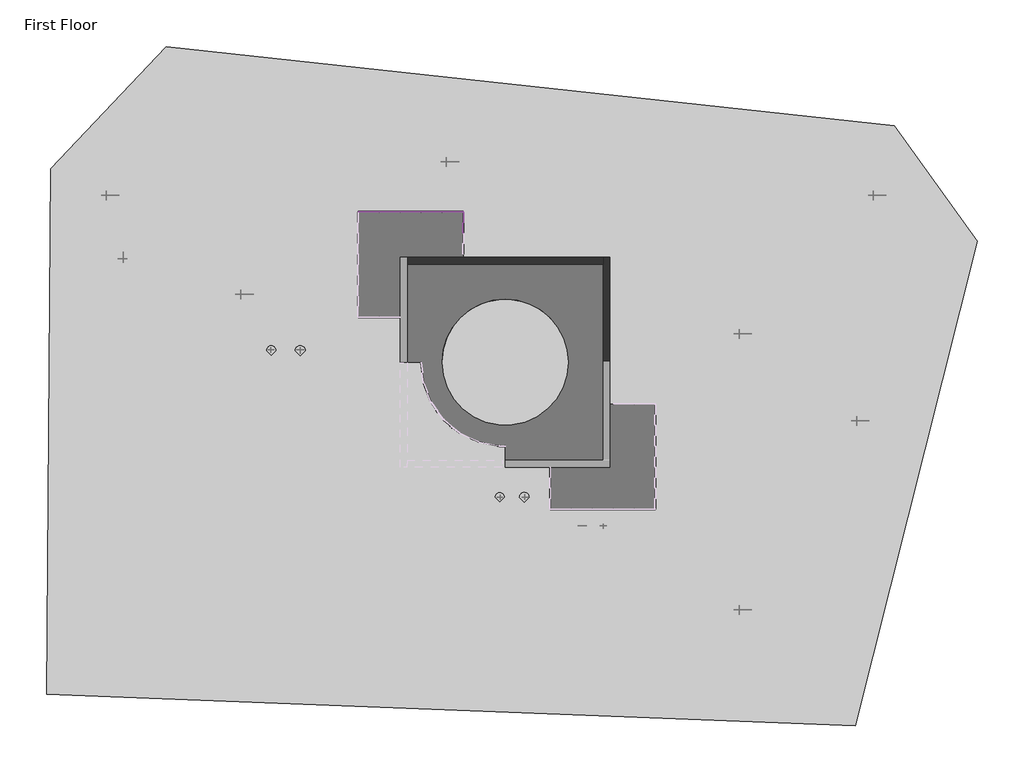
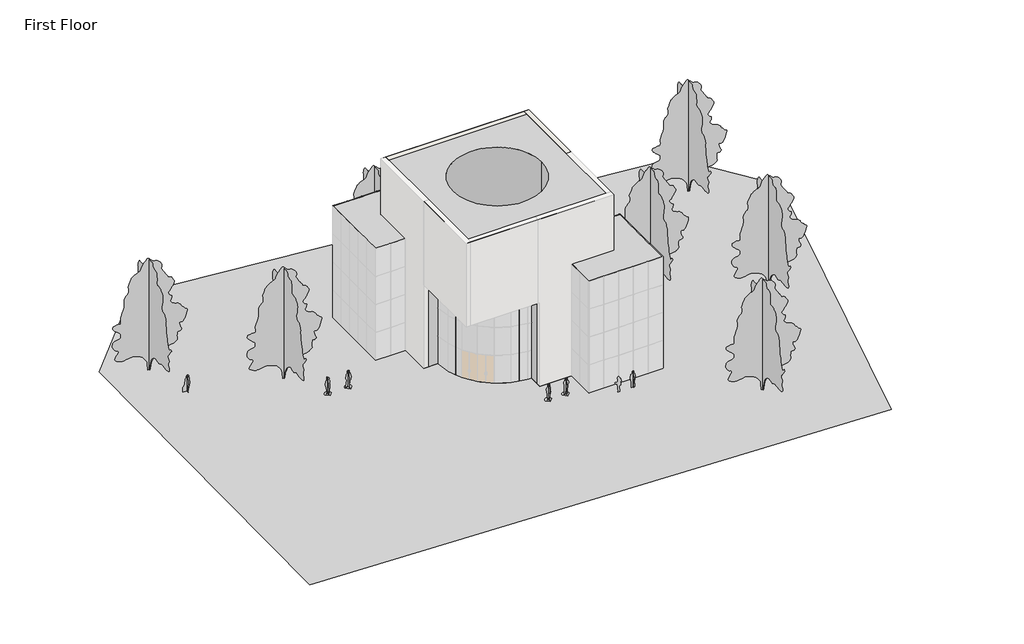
# One storey, part 4 of 4: 65 members, 24 plates, 10 proxies, 7 geographic elements, 2 slabs, 2 walls.
"""IFC4 building model written with IfcOpenShell, lengths in millimetres."""

from ifc_helpers import new_model, si_unit, point, frame, frame_2d, origin, origin_with_axes, place, context, project, spatial, polyline, circle_curve, trimmed, segment, composite_curve, outline, extrude, faceted_brep, triangles, transform, mapped, element, save
from ifc_brep_helpers import plane_surface, cylinder_surface, revolved_surface, advanced_brep
from components import rpc_female_16ef0111, rpc_female_6119fb87, rpc_female_692637f3, rpc_female_aec5a013, rpc_male_28878092, rpc_male_2293c1c2, rpc_male_04e7faa4, rpc_tree_deciduous_lombardy_poplar_40_01077960, member_6604d1e0, member_9fd3d903, member_5e617a80, member_cbdb9076, member_74941792, member_7e523723, system_panel_glazed_9c75bc08

model = new_model("IFC4")

# Units and contexts
model_context = context("Model", 3, world=origin())
ifc_project = project(units=[si_unit("LENGTHUNIT", "METRE", prefix="MILLI")], contexts=[model_context])

# Site, building, storey
site = spatial("IfcSite", under=ifc_project)
building = spatial("IfcBuilding", under=site)
storey = spatial("IfcBuildingStorey", under=building, Name="First Floor", Elevation=0.0)

# Proxies
placement = place(None, origin())
element("IfcBuildingElementProxy", 1, Name="Building Element Proxy", at=placement, inside=storey, context=model_context, shape_type="Tessellation", body=[
    triangles([(-35705.3670959, 11435.5182678, 0.0), (-27328.2505188, 20317.2807861, 0.0), (25558.6050476, 14564.3214752, 0.0), (31614.3516907, 6187.2048981, 0.0), (22732.5891724, -29037.0555176, 0.0), (-36008.1532654, -26715.6855835, 0.0)], [[6, 2, 1], [2, 6, 5], [5, 4, 3], [5, 3, 2]], closed=False),
])
element("IfcBuildingElementProxy", 2, Name="Central Hall : Central Hall", ObjectType="Central Hall : Central Hall", at=placement, inside=storey, context=model_context, shape_type="AdvancedBrep", body=[
    advanced_brep(
    [(4920.7859619, 5010.3465511, 0.0), (-10319.2140381, 5010.3465511, 0.0), (-10319.2140381, 5010.3465511, 18288.0), (4920.7859619, 5010.3465511, 18288.0), (-10319.2140381, -2609.6534489, 0.0), (-10319.2140381, -2609.6534489, 9144.0), (-10319.2140381, -10229.6534489, 9144.0), (-10319.2140381, -10229.6534489, 18288.0), (4920.7859619, -10229.6534489, 0.0), (4920.7859619, -10229.6534489, 18288.0), (-2699.2140381, -10229.6534489, 9144.0), (-2699.2140381, -10229.6534489, 0.0), (1872.7859619, -2609.6534489, 18288.0), (-7271.2140381, -2609.6534489, 18288.0), (-2699.2140381, -8705.6534489, 0.0), (-8795.2140381, -2609.6534489, 0.0), (-7271.2140381, -2609.6534489, 0.0), (1872.7859619, -2609.6534489, 0.0), (-8795.2140381, -2609.6534489, 9144.0), (-2699.2140381, -8705.6534489, 9144.0)],
    [
        (0, 1),
        (1, 2),
        (2, 3),
        (3, 0),
        (1, 4),
        (4, 5),
        (5, 6),
        (6, 7),
        (7, 2),
        (8, 9),
        (9, 7),
        (6, 10),
        (10, 11),
        (11, 8),
        (3, 9),
        (8, 0),
        (12, 13, circle_curve(frame((-2699.2140381, -2609.6534489, 18288.0), z_axis=(0.0, 0.0, -1.0), x_axis=(0.0, -1.0, 0.0)), 4572.0)),
        (13, 12, circle_curve(frame((-2699.2140381, -2609.6534489, 18288.0), z_axis=(0.0, 0.0, -1.0), x_axis=(0.0, 1.0, 0.0)), 4572.0)),
        (11, 14),
        (14, 15, circle_curve(frame((-2699.2140381, -2609.6534489, 0.0), z_axis=(0.0, 0.0, -1.0), x_axis=(-1.0, 0.0, 0.0)), 6096.0)),
        (15, 4),
        (16, 17, circle_curve(frame((-2699.2140381, -2609.6534489, 0.0), z_axis=(0.0, 0.0, 1.0), x_axis=(0.0, -1.0, 0.0)), 4572.0)),
        (17, 16, circle_curve(frame((-2699.2140381, -2609.6534489, 0.0), z_axis=(0.0, 0.0, 1.0), x_axis=(0.0, 1.0, 0.0)), 4572.0)),
        (16, 13),
        (12, 17),
        (15, 18),
        (18, 5),
        (10, 19),
        (19, 14),
        (19, 18, circle_curve(frame((-2699.2140381, -2609.6534489, 9144.0), z_axis=(0.0, 0.0, -1.0), x_axis=(-1.0, 0.0, 0.0)), 6096.0)),
    ],
    [
        plane_surface(frame((-2699.2140381, 5010.3465511, 0.0), z_axis=(0.0, 1.0, 0.0), x_axis=(-1.0, 0.0, 0.0))),
        plane_surface(frame((-10319.2140381, -2609.6534489, 0.0), z_axis=(-1.0, 0.0, 0.0), x_axis=(0.0, -1.0, 0.0))),
        plane_surface(frame((-2699.2140381, -10229.6534489, 0.0), z_axis=(0.0, -1.0, 0.0), x_axis=(1.0, 0.0, 0.0))),
        plane_surface(frame((4920.7859619, -2609.6534489, 0.0), z_axis=(1.0, 0.0, 0.0), x_axis=(0.0, 1.0, 0.0))),
        plane_surface(frame((-2699.2140381, -2609.6534489, 18288.0), z_axis=(0.0, 0.0, 1.0), x_axis=(1.0, 0.0, 0.0))),
        plane_surface(frame((-2699.2140381, -2609.6534489, 0.0), z_axis=(0.0, 0.0, -1.0), x_axis=(0.0, -1.0, 0.0))),
        revolved_surface(polyline([(-2699.2140381, -7181.6534489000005, 18288.0), (-2699.2140381, -7181.6534489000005, 0.0)]), (-2699.2140381, -2609.6534489, 0.0), (0.0, 0.0, 1.0)),
        revolved_surface(polyline([(-2699.2140381, 1962.3465511, 18288.0), (-2699.2140381, 1962.3465511, 0.0)]), (-2699.2140381, -2609.6534489, 0.0), (0.0, 0.0, 1.0)),
        plane_surface(frame((-9557.2140381, -2609.6534489, 0.0), z_axis=(0.0, -1.0, 0.0), x_axis=(-1.0, 0.0, 0.0))),
        plane_surface(frame((-2699.2140381, -9467.6534489, 0.0), z_axis=(-1.0, 0.0, 0.0), x_axis=(0.0, 1.0, 0.0))),
        cylinder_surface(frame((-2699.2140381, -2609.6534489, 0.0), z_axis=(0.0, 0.0, 1.0), x_axis=(-1.0, 0.0, 0.0)), 6096.0),
        plane_surface(frame((-6966.4140381, -6876.8534489, 9144.0), z_axis=(0.0, 0.0, -1.0), x_axis=(1.0, 0.0, 0.0))),
    ],
    [
        (0, [[1, 2, 3, 4]]),
        (1, [[-2, 5, 6, 7, 8, 9]]),
        (2, [[10, 11, -8, 12, 13, 14]]),
        (3, [[-4, 15, -10, 16]]),
        (4, [[-3, -9, -11, -15], [17, 18]]),
        (5, [[-1, -16, -14, 19, 20, 21, -5], [22, 23]]),
        (6, [[24, -17, 25, -22]]),
        (7, [[-24, -23, -25, -18]]),
        (8, [[26, 27, -6, -21]]),
        (9, [[28, 29, -19, -13]]),
        (10, [[-26, -20, -29, 30]]),
        (11, [[-27, -30, -28, -12, -7]]),
    ],
),
])
rpc_female_shape = rpc_female_16ef0111(model_context)
element("IfcBuildingElementProxy", 3, Name="RPC Female : Cathy", ObjectType="RPC Female : Cathy", at=placement, inside=storey, context=model_context, shape_type="MappedRepresentation", body=[
    mapped(rpc_female_shape, transform((-30496.8872424, 5010.3465511, 0.0), x_axis=(1.0, 0.0, 0.0), y_axis=(0.0, 1.0, 0.0), z_axis=(0.0, 0.0, 1.0))),
])
rpc_female_2_shape = rpc_female_6119fb87(model_context)
element("IfcBuildingElementProxy", 4, Name="RPC Female : YinYin", ObjectType="RPC Female : YinYin", at=placement, inside=storey, context=model_context, shape_type="MappedRepresentation", body=[
    mapped(rpc_female_2_shape, transform((-19686.3832739, -1765.415362, 0.0), x_axis=(1.0, 0.0, 0.0), y_axis=(0.0, 1.0, 0.0), z_axis=(0.0, 0.0, 1.0))),
])
rpc_female_3_shape = rpc_female_692637f3(model_context)
element("IfcBuildingElementProxy", 5, Name="RPC Female : Florence", ObjectType="RPC Female : Florence", at=placement, inside=storey, context=model_context, shape_type="MappedRepresentation", body=[
    mapped(rpc_female_3_shape, transform((-3089.4792099, -12420.4034489, 0.0), x_axis=(1.0, 0.0, 0.0), y_axis=(0.0, 1.0, 0.0), z_axis=(0.0, 0.0, 1.0))),
])
rpc_female_4_shape = rpc_female_aec5a013(model_context)
element("IfcBuildingElementProxy", 6, Name="RPC Female : Lisa", ObjectType="RPC Female : Lisa", at=placement, inside=storey, context=model_context, shape_type="MappedRepresentation", body=[
    mapped(rpc_female_4_shape, transform((2896.0466823, -14496.8534489, 0.0), x_axis=(1.0, 0.0, 0.0), y_axis=(0.0, 1.0, 0.0), z_axis=(0.0, 0.0, 1.0))),
])
rpc_male_shape = rpc_male_28878092(model_context)
element("IfcBuildingElementProxy", 7, Name="RPC Male : Dwayne", ObjectType="RPC Male : Dwayne", at=placement, inside=storey, context=model_context, shape_type="MappedRepresentation", body=[
    mapped(rpc_male_shape, transform((4425.4859619, -14496.8534489, 0.0), x_axis=(1.0, 0.0, 0.0), y_axis=(0.0, 1.0, 0.0), z_axis=(0.0, 0.0, 1.0))),
])
rpc_male_2_shape = rpc_male_2293c1c2(model_context)
element("IfcBuildingElementProxy", 8, Name="RPC Male : Alex", ObjectType="RPC Male : Alex", at=placement, inside=storey, context=model_context, shape_type="MappedRepresentation", body=[
    mapped(rpc_male_2_shape, transform((-17580.7524224, -1765.415362, 0.0), x_axis=(1.0, 0.0, 0.0), y_axis=(0.0, 1.0, 0.0), z_axis=(0.0, 0.0, 1.0))),
])
rpc_male_3_shape = rpc_male_04e7faa4(model_context)
element("IfcBuildingElementProxy", 9, Name="RPC Male : Jay", ObjectType="RPC Male : Jay", at=placement, inside=storey, context=model_context, shape_type="MappedRepresentation", body=[
    mapped(rpc_male_3_shape, transform((-1304.3223648, -12420.4034489, 0.0), x_axis=(1.0, 0.0, 0.0), y_axis=(0.0, 1.0, 0.0), z_axis=(0.0, 0.0, 1.0))),
])
element("IfcBuildingElementProxy", 10, Name="Wings : Wings", ObjectType="Wings : Wings", at=placement, inside=storey, context=model_context, shape_type="SweptSolid", body=[
    extrude(outline(polyline([(-13367.2140381, 672.984638), (-13367.2140381, 8292.984638), (-5747.2140381, 8292.984638), (-5747.2140381, 5244.984638), (-5747.2140381, 5010.3465511), (-10319.2140381, 5010.3465511), (-10319.2140381, 672.984638), (-13367.2140381, 672.984638)])), origin_with_axes(), (0.0, 0.0, 1.0), 12192.0),
    extrude(outline(polyline([(583.4240488, -13277.6534489), (583.4240488, -10229.6534489), (4920.7859619, -10229.6534489), (4920.7859619, -5657.6534489), (5155.4240488, -5657.6534489), (8203.4240488, -5657.6534489), (8203.4240488, -13277.6534489), (583.4240488, -13277.6534489)])), origin_with_axes(), (0.0, 0.0, 1.0), 12192.0),
])

# Geographic elements
rpc_tree_deciduous_lombardy_poplar_40_shape = rpc_tree_deciduous_lombardy_poplar_40_01077960(model_context)
element("IfcGeographicElement", 11, ObjectType="RPC Tree - Deciduous : Lombardy Poplar - 40'", at=placement, inside=storey, context=model_context, shape_type="MappedRepresentation", body=[
    mapped(rpc_tree_deciduous_lombardy_poplar_40_shape, transform((-21901.6140381, 2324.2965511, 0.0), x_axis=(1.0, 0.0, 0.0), y_axis=(0.0, 1.0, 0.0), z_axis=(0.0, 0.0, 1.0))),
])
element("IfcGeographicElement", 12, ObjectType="RPC Tree - Deciduous : Lombardy Poplar - 40'", at=placement, inside=storey, context=model_context, shape_type="MappedRepresentation", body=[
    mapped(rpc_tree_deciduous_lombardy_poplar_40_shape, transform((-6966.4140381, 11950.584638, 0.0), x_axis=(1.0, 0.0, 0.0), y_axis=(0.0, 1.0, 0.0), z_axis=(0.0, 0.0, 1.0))),
])
element("IfcGeographicElement", 13, ObjectType="RPC Tree - Deciduous : Lombardy Poplar - 40'", at=placement, inside=storey, context=model_context, shape_type="MappedRepresentation", body=[
    mapped(rpc_tree_deciduous_lombardy_poplar_40_shape, transform((-31655.2140381, 9512.184638, 0.0), x_axis=(1.0, 0.0, 0.0), y_axis=(0.0, 1.0, 0.0), z_axis=(0.0, 0.0, 1.0))),
])
element("IfcGeographicElement", 14, ObjectType="RPC Tree - Deciduous : Lombardy Poplar - 40'", at=placement, inside=storey, context=model_context, shape_type="MappedRepresentation", body=[
    mapped(rpc_tree_deciduous_lombardy_poplar_40_shape, transform((24053.0240488, 9512.184638, 0.0), x_axis=(1.0, 0.0, 0.0), y_axis=(0.0, 1.0, 0.0), z_axis=(0.0, 0.0, 1.0))),
])
element("IfcGeographicElement", 15, ObjectType="RPC Tree - Deciduous : Lombardy Poplar - 40'", at=placement, inside=storey, context=model_context, shape_type="MappedRepresentation", body=[
    mapped(rpc_tree_deciduous_lombardy_poplar_40_shape, transform((14299.4240488, -546.215362, 0.0), x_axis=(1.0, 0.0, 0.0), y_axis=(0.0, 1.0, 0.0), z_axis=(0.0, 0.0, 1.0))),
])
element("IfcGeographicElement", 16, ObjectType="RPC Tree - Deciduous : Lombardy Poplar - 40'", at=placement, inside=storey, context=model_context, shape_type="MappedRepresentation", body=[
    mapped(rpc_tree_deciduous_lombardy_poplar_40_shape, transform((22833.8240488, -6876.8534489, 0.0), x_axis=(1.0, 0.0, 0.0), y_axis=(0.0, 1.0, 0.0), z_axis=(0.0, 0.0, 1.0))),
])
element("IfcGeographicElement", 17, ObjectType="RPC Tree - Deciduous : Lombardy Poplar - 40'", at=placement, inside=storey, context=model_context, shape_type="MappedRepresentation", body=[
    mapped(rpc_tree_deciduous_lombardy_poplar_40_shape, transform((14299.4240488, -20592.8534489, 0.0), x_axis=(1.0, 0.0, 0.0), y_axis=(0.0, 1.0, 0.0), z_axis=(0.0, 0.0, 1.0))),
])

# Members
member_shape = member_6604d1e0(model_context)
element("IfcMember", 18, ObjectType="Rectangular Mullion : 1\" Square", at=placement, inside=storey, context=model_context, shape_type="MappedRepresentation", body=[
    mapped(member_shape, transform((-10331.9140381, 8292.984638, 0.0), x_axis=(0.0, 0.0, -1.0), y_axis=(0.0, 1.0, 0.0), z_axis=(1.0, 0.0, 0.0))),
])
element("IfcMember", 19, ObjectType="Rectangular Mullion : 1\" Square", at=placement, inside=storey, context=model_context, shape_type="MappedRepresentation", body=[
    mapped(member_shape, transform((-8807.9140381, 8292.984638, 0.0), x_axis=(0.0, 0.0, -1.0), y_axis=(0.0, 1.0, 0.0), z_axis=(1.0, 0.0, 0.0))),
])
element("IfcMember", 20, ObjectType="Rectangular Mullion : 1\" Square", at=placement, inside=storey, context=model_context, shape_type="MappedRepresentation", body=[
    mapped(member_shape, transform((-7283.9140381, 8292.984638, 0.0), x_axis=(0.0, 0.0, -1.0), y_axis=(0.0, 1.0, 0.0), z_axis=(1.0, 0.0, 0.0))),
])
member_2_shape = member_9fd3d903(model_context)
element("IfcMember", 21, ObjectType="Rectangular Mullion : 1\" Square", at=placement, inside=storey, context=model_context, shape_type="MappedRepresentation", body=[
    mapped(member_2_shape, transform((-10306.5140381, 8292.984638, 6096.0), x_axis=(0.0, 0.0, 1.0), y_axis=(0.0, 1.0, 0.0), z_axis=(-1.0, 0.0, 0.0))),
])
element("IfcMember", 22, ObjectType="Rectangular Mullion : 1\" Square", at=placement, inside=storey, context=model_context, shape_type="MappedRepresentation", body=[
    mapped(member_2_shape, transform((-10306.5140381, 8292.984638, 3048.0), x_axis=(0.0, 0.0, 1.0), y_axis=(0.0, 1.0, 0.0), z_axis=(-1.0, 0.0, 0.0))),
])
element("IfcMember", 23, ObjectType="Rectangular Mullion : 1\" Square", at=placement, inside=storey, context=model_context, shape_type="MappedRepresentation", body=[
    mapped(member_2_shape, transform((-8782.5140381, 8292.984638, 6096.0), x_axis=(0.0, 0.0, 1.0), y_axis=(0.0, 1.0, 0.0), z_axis=(-1.0, 0.0, 0.0))),
])
element("IfcMember", 24, ObjectType="Rectangular Mullion : 1\" Square", at=placement, inside=storey, context=model_context, shape_type="MappedRepresentation", body=[
    mapped(member_2_shape, transform((-11830.5140381, 8292.984638, 3048.0), x_axis=(0.0, 0.0, 1.0), y_axis=(0.0, 1.0, 0.0), z_axis=(-1.0, 0.0, 0.0))),
])
element("IfcMember", 25, ObjectType="Rectangular Mullion : 1\" Square", at=placement, inside=storey, context=model_context, shape_type="MappedRepresentation", body=[
    mapped(member_2_shape, transform((-8782.5140381, 8292.984638, 3048.0), x_axis=(0.0, 0.0, 1.0), y_axis=(0.0, 1.0, 0.0), z_axis=(-1.0, 0.0, 0.0))),
])
element("IfcMember", 26, ObjectType="Rectangular Mullion : 1\" Square", at=placement, inside=storey, context=model_context, shape_type="MappedRepresentation", body=[
    mapped(member_2_shape, transform((-11830.5140381, 8292.984638, 9144.0), x_axis=(0.0, 0.0, 1.0), y_axis=(0.0, 1.0, 0.0), z_axis=(-1.0, 0.0, 0.0))),
])
element("IfcMember", 27, ObjectType="Rectangular Mullion : 1\" Square", at=placement, inside=storey, context=model_context, shape_type="MappedRepresentation", body=[
    mapped(member_2_shape, transform((-8782.5140381, 8292.984638, 9144.0), x_axis=(0.0, 0.0, 1.0), y_axis=(0.0, 1.0, 0.0), z_axis=(-1.0, 0.0, 0.0))),
])
element("IfcMember", 28, ObjectType="Rectangular Mullion : 1\" Square", at=placement, inside=storey, context=model_context, shape_type="MappedRepresentation", body=[
    mapped(member_2_shape, transform((-10306.5140381, 8292.984638, 9144.0), x_axis=(0.0, 0.0, 1.0), y_axis=(0.0, 1.0, 0.0), z_axis=(-1.0, 0.0, 0.0))),
])
element("IfcMember", 29, ObjectType="Rectangular Mullion : 1\" Square", at=placement, inside=storey, context=model_context, shape_type="MappedRepresentation", body=[
    mapped(member_2_shape, transform((-11830.5140381, 8292.984638, 6096.0), x_axis=(0.0, 0.0, 1.0), y_axis=(0.0, 1.0, 0.0), z_axis=(-1.0, 0.0, 0.0))),
])
member_3_shape = member_5e617a80(model_context)
element("IfcMember", 30, ObjectType="Rectangular Mullion : 1\" Square", at=placement, inside=storey, context=model_context, shape_type="MappedRepresentation", body=[
    mapped(member_3_shape, transform((-5747.2140381, 8267.584638, 3048.0), x_axis=(0.0, 0.0, 1.0), y_axis=(1.0, 0.0, 0.0), z_axis=(0.0, 1.0, 0.0))),
])
element("IfcMember", 31, ObjectType="Rectangular Mullion : 1\" Square", at=placement, inside=storey, context=model_context, shape_type="MappedRepresentation", body=[
    mapped(member_3_shape, transform((-5747.2140381, 8267.584638, 9144.0), x_axis=(0.0, 0.0, 1.0), y_axis=(1.0, 0.0, 0.0), z_axis=(0.0, 1.0, 0.0))),
])
element("IfcMember", 32, ObjectType="Rectangular Mullion : 1\" Square", at=placement, inside=storey, context=model_context, shape_type="MappedRepresentation", body=[
    mapped(member_3_shape, transform((-5747.2140381, 8267.584638, 6096.0), x_axis=(0.0, 0.0, 1.0), y_axis=(1.0, 0.0, 0.0), z_axis=(0.0, 1.0, 0.0))),
])
element("IfcMember", 33, ObjectType="Rectangular Mullion : 1\" Square", at=placement, inside=storey, context=model_context, shape_type="MappedRepresentation", body=[
    mapped(member_3_shape, transform((-13341.8140381, 8292.984638, 9144.0), x_axis=(0.0, 0.0, 1.0), y_axis=(0.0, 1.0, 0.0), z_axis=(-1.0, 0.0, 0.0))),
])
element("IfcMember", 34, ObjectType="Rectangular Mullion : 1\" Square", at=placement, inside=storey, context=model_context, shape_type="MappedRepresentation", body=[
    mapped(member_3_shape, transform((-7258.5140381, 8292.984638, 3048.0), x_axis=(0.0, 0.0, 1.0), y_axis=(0.0, 1.0, 0.0), z_axis=(-1.0, 0.0, 0.0))),
])
element("IfcMember", 35, ObjectType="Rectangular Mullion : 1\" Square", at=placement, inside=storey, context=model_context, shape_type="MappedRepresentation", body=[
    mapped(member_3_shape, transform((-7258.5140381, 8292.984638, 6096.0), x_axis=(0.0, 0.0, 1.0), y_axis=(0.0, 1.0, 0.0), z_axis=(-1.0, 0.0, 0.0))),
])
element("IfcMember", 36, ObjectType="Rectangular Mullion : 1\" Square", at=placement, inside=storey, context=model_context, shape_type="MappedRepresentation", body=[
    mapped(member_3_shape, transform((-13341.8140381, 8292.984638, 3048.0), x_axis=(0.0, 0.0, 1.0), y_axis=(0.0, 1.0, 0.0), z_axis=(-1.0, 0.0, 0.0))),
])
element("IfcMember", 37, ObjectType="Rectangular Mullion : 1\" Square", at=placement, inside=storey, context=model_context, shape_type="MappedRepresentation", body=[
    mapped(member_3_shape, transform((-13341.8140381, 8292.984638, 6096.0), x_axis=(0.0, 0.0, 1.0), y_axis=(0.0, 1.0, 0.0), z_axis=(-1.0, 0.0, 0.0))),
])
element("IfcMember", 38, ObjectType="Rectangular Mullion : 1\" Square", at=placement, inside=storey, context=model_context, shape_type="MappedRepresentation", body=[
    mapped(member_3_shape, transform((-7258.5140381, 8292.984638, 9144.0), x_axis=(0.0, 0.0, 1.0), y_axis=(0.0, 1.0, 0.0), z_axis=(-1.0, 0.0, 0.0))),
])
member_4_shape = member_cbdb9076(model_context)
element("IfcMember", 39, ObjectType="Rectangular Mullion : 1\" Square", at=placement, inside=storey, context=model_context, shape_type="MappedRepresentation", body=[
    mapped(member_4_shape, transform((-5747.2140381, 6768.984638, 9144.0), x_axis=(0.0, 1.0, 0.0), y_axis=(1.0, 0.0, 0.0), z_axis=(0.0, 0.0, -1.0))),
])
element("IfcMember", 40, ObjectType="Rectangular Mullion : 1\" Square", at=placement, inside=storey, context=model_context, shape_type="MappedRepresentation", body=[
    mapped(member_4_shape, transform((-10319.2140381, 8292.984638, 9144.0), x_axis=(-1.0, 0.0, 0.0), y_axis=(0.0, 1.0, 0.0), z_axis=(0.0, 0.0, -1.0))),
])
element("IfcMember", 41, ObjectType="Rectangular Mullion : 1\" Square", at=placement, inside=storey, context=model_context, shape_type="MappedRepresentation", body=[
    mapped(member_4_shape, transform((-8795.2140381, 8292.984638, 9144.0), x_axis=(-1.0, 0.0, 0.0), y_axis=(0.0, 1.0, 0.0), z_axis=(0.0, 0.0, -1.0))),
])
element("IfcMember", 42, ObjectType="Rectangular Mullion : 1\" Square", at=placement, inside=storey, context=model_context, shape_type="MappedRepresentation", body=[
    mapped(member_4_shape, transform((-7271.2140381, 8292.984638, 9144.0), x_axis=(-1.0, 0.0, 0.0), y_axis=(0.0, 1.0, 0.0), z_axis=(0.0, 0.0, -1.0))),
])
element("IfcMember", 43, ObjectType="Rectangular Mullion : 1\" Square", at=placement, inside=storey, context=model_context, shape_type="MappedRepresentation", body=[
    mapped(member_4_shape, transform((-11843.2140381, 8292.984638, 9144.0), x_axis=(-1.0, 0.0, 0.0), y_axis=(0.0, 1.0, 0.0), z_axis=(0.0, 0.0, -1.0))),
])
element("IfcMember", 44, ObjectType="Rectangular Mullion : 1\" Square", at=placement, inside=storey, context=model_context, shape_type="MappedRepresentation", body=[
    mapped(member_4_shape, transform((-5747.2140381, 6768.984638, 3048.0), x_axis=(0.0, 1.0, 0.0), y_axis=(1.0, 0.0, 0.0), z_axis=(0.0, 0.0, -1.0))),
])
element("IfcMember", 45, ObjectType="Rectangular Mullion : 1\" Square", at=placement, inside=storey, context=model_context, shape_type="MappedRepresentation", body=[
    mapped(member_4_shape, transform((-5747.2140381, 6768.984638, 6096.0), x_axis=(0.0, 1.0, 0.0), y_axis=(1.0, 0.0, 0.0), z_axis=(0.0, 0.0, -1.0))),
])
element("IfcMember", 46, ObjectType="Rectangular Mullion : 1\" Square", at=placement, inside=storey, context=model_context, shape_type="MappedRepresentation", body=[
    mapped(member_4_shape, transform((-11843.2140381, 8292.984638, 3048.0), x_axis=(-1.0, 0.0, 0.0), y_axis=(0.0, 1.0, 0.0), z_axis=(0.0, 0.0, -1.0))),
])
element("IfcMember", 47, ObjectType="Rectangular Mullion : 1\" Square", at=placement, inside=storey, context=model_context, shape_type="MappedRepresentation", body=[
    mapped(member_4_shape, transform((-10319.2140381, 8292.984638, 6096.0), x_axis=(-1.0, 0.0, 0.0), y_axis=(0.0, 1.0, 0.0), z_axis=(0.0, 0.0, -1.0))),
])
element("IfcMember", 48, ObjectType="Rectangular Mullion : 1\" Square", at=placement, inside=storey, context=model_context, shape_type="MappedRepresentation", body=[
    mapped(member_4_shape, transform((-10319.2140381, 8292.984638, 3048.0), x_axis=(-1.0, 0.0, 0.0), y_axis=(0.0, 1.0, 0.0), z_axis=(0.0, 0.0, -1.0))),
])
element("IfcMember", 49, ObjectType="Rectangular Mullion : 1\" Square", at=placement, inside=storey, context=model_context, shape_type="MappedRepresentation", body=[
    mapped(member_4_shape, transform((-8795.2140381, 8292.984638, 6096.0), x_axis=(-1.0, 0.0, 0.0), y_axis=(0.0, 1.0, 0.0), z_axis=(0.0, 0.0, -1.0))),
])
element("IfcMember", 50, ObjectType="Rectangular Mullion : 1\" Square", at=placement, inside=storey, context=model_context, shape_type="MappedRepresentation", body=[
    mapped(member_4_shape, transform((-8795.2140381, 8292.984638, 3048.0), x_axis=(-1.0, 0.0, 0.0), y_axis=(0.0, 1.0, 0.0), z_axis=(0.0, 0.0, -1.0))),
])
element("IfcMember", 51, ObjectType="Rectangular Mullion : 1\" Square", at=placement, inside=storey, context=model_context, shape_type="MappedRepresentation", body=[
    mapped(member_4_shape, transform((-7271.2140381, 8292.984638, 6096.0), x_axis=(-1.0, 0.0, 0.0), y_axis=(0.0, 1.0, 0.0), z_axis=(0.0, 0.0, -1.0))),
])
element("IfcMember", 52, ObjectType="Rectangular Mullion : 1\" Square", at=placement, inside=storey, context=model_context, shape_type="MappedRepresentation", body=[
    mapped(member_4_shape, transform((-7271.2140381, 8292.984638, 3048.0), x_axis=(-1.0, 0.0, 0.0), y_axis=(0.0, 1.0, 0.0), z_axis=(0.0, 0.0, -1.0))),
])
element("IfcMember", 53, ObjectType="Rectangular Mullion : 1\" Square", at=placement, inside=storey, context=model_context, shape_type="MappedRepresentation", body=[
    mapped(member_4_shape, transform((-11843.2140381, 8292.984638, 6096.0), x_axis=(-1.0, 0.0, 0.0), y_axis=(0.0, 1.0, 0.0), z_axis=(0.0, 0.0, -1.0))),
])
element("IfcMember", 54, ObjectType="Rectangular Mullion : 1\" Square", at=placement, inside=storey, context=model_context, shape_type="MappedRepresentation", body=[
    mapped(member_shape, transform((-11830.5140381, 8292.984638, 12192.0), x_axis=(0.0, 0.0, 1.0), y_axis=(0.0, 1.0, 0.0), z_axis=(-1.0, 0.0, 0.0))),
])
element("IfcMember", 55, ObjectType="Rectangular Mullion : 1\" Square", at=placement, inside=storey, context=model_context, shape_type="MappedRepresentation", body=[
    mapped(member_shape, transform((-10306.5140381, 8292.984638, 12192.0), x_axis=(0.0, 0.0, 1.0), y_axis=(0.0, 1.0, 0.0), z_axis=(-1.0, 0.0, 0.0))),
])
element("IfcMember", 56, ObjectType="Rectangular Mullion : 1\" Square", at=placement, inside=storey, context=model_context, shape_type="MappedRepresentation", body=[
    mapped(member_shape, transform((-8782.5140381, 8292.984638, 12192.0), x_axis=(0.0, 0.0, 1.0), y_axis=(0.0, 1.0, 0.0), z_axis=(-1.0, 0.0, 0.0))),
])
member_5_shape = member_74941792(model_context)
element("IfcMember", 57, ObjectType="Rectangular Mullion : 1\" Square", at=placement, inside=storey, context=model_context, shape_type="MappedRepresentation", body=[
    mapped(member_5_shape, transform((-11855.9140381, 8292.984638, 0.0), x_axis=(0.0, 0.0, -1.0), y_axis=(0.0, 1.0, 0.0), z_axis=(1.0, 0.0, 0.0))),
])
element("IfcMember", 58, ObjectType="Rectangular Mullion : 1\" Square", at=placement, inside=storey, context=model_context, shape_type="MappedRepresentation", body=[
    mapped(member_5_shape, transform((-5772.6140381, 8292.984638, 0.0), x_axis=(0.0, 0.0, -1.0), y_axis=(0.0, 1.0, 0.0), z_axis=(1.0, 0.0, 0.0))),
])
element("IfcMember", 59, ObjectType="Rectangular Mullion : 1\" Square", at=placement, inside=storey, context=model_context, shape_type="MappedRepresentation", body=[
    mapped(member_5_shape, transform((-13367.2140381, 8267.584638, 0.0), x_axis=(0.0, 0.0, -1.0), y_axis=(-1.0, 0.0, 0.0), z_axis=(0.0, 1.0, 0.0))),
])
element("IfcMember", 60, ObjectType="Rectangular Mullion : 1\" Square", at=placement, inside=storey, context=model_context, shape_type="MappedRepresentation", body=[
    mapped(member_5_shape, transform((-5747.2140381, 8267.584638, 12192.0), x_axis=(0.0, 0.0, 1.0), y_axis=(1.0, 0.0, 0.0), z_axis=(0.0, 1.0, 0.0))),
])
element("IfcMember", 61, ObjectType="Rectangular Mullion : 1\" Square", at=placement, inside=storey, context=model_context, shape_type="MappedRepresentation", body=[
    mapped(member_5_shape, transform((-7258.5140381, 8292.984638, 12192.0), x_axis=(0.0, 0.0, 1.0), y_axis=(0.0, 1.0, 0.0), z_axis=(-1.0, 0.0, 0.0))),
])
element("IfcMember", 62, ObjectType="Rectangular Mullion : 1\" Square", at=placement, inside=storey, context=model_context, shape_type="MappedRepresentation", body=[
    mapped(member_5_shape, transform((-13341.8140381, 8292.984638, 12192.0), x_axis=(0.0, 0.0, 1.0), y_axis=(0.0, 1.0, 0.0), z_axis=(-1.0, 0.0, 0.0))),
])
element("IfcMember", 63, ObjectType="Rectangular Mullion : 1\" Square", at=placement, inside=storey, context=model_context, shape_type="MappedRepresentation", body=[
    mapped(member_4_shape, transform((-10319.2140381, 8292.984638, 0.0), x_axis=(-1.0, 0.0, 0.0), y_axis=(0.0, 1.0, 0.0), z_axis=(0.0, 0.0, -1.0))),
])
element("IfcMember", 64, ObjectType="Rectangular Mullion : 1\" Square", at=placement, inside=storey, context=model_context, shape_type="MappedRepresentation", body=[
    mapped(member_4_shape, transform((-11843.2140381, 8292.984638, 0.0), x_axis=(-1.0, 0.0, 0.0), y_axis=(0.0, 1.0, 0.0), z_axis=(0.0, 0.0, -1.0))),
])
element("IfcMember", 65, ObjectType="Rectangular Mullion : 1\" Square", at=placement, inside=storey, context=model_context, shape_type="MappedRepresentation", body=[
    mapped(member_4_shape, transform((-8795.2140381, 8292.984638, 0.0), x_axis=(-1.0, 0.0, 0.0), y_axis=(0.0, 1.0, 0.0), z_axis=(0.0, 0.0, -1.0))),
])
element("IfcMember", 66, ObjectType="Rectangular Mullion : 1\" Square", at=placement, inside=storey, context=model_context, shape_type="MappedRepresentation", body=[
    mapped(member_4_shape, transform((-7271.2140381, 8292.984638, 0.0), x_axis=(-1.0, 0.0, 0.0), y_axis=(0.0, 1.0, 0.0), z_axis=(0.0, 0.0, -1.0))),
])
member_6_shape = member_7e523723(model_context)
element("IfcMember", 67, ObjectType="Rectangular Mullion : 1\" Square", at=placement, inside=storey, context=model_context, shape_type="MappedRepresentation", body=[
    mapped(member_6_shape, transform((-5747.2140381, 8292.984638, 9144.0), x_axis=(1.0, 0.0, 0.0), y_axis=(0.0, 1.0, 0.0), z_axis=(0.0, 0.0, 1.0))),
])
element("IfcMember", 68, ObjectType="Rectangular Mullion : 1\" Square", at=placement, inside=storey, context=model_context, shape_type="MappedRepresentation", body=[
    mapped(member_6_shape, transform((-5747.2140381, 8292.984638, 6096.0), x_axis=(1.0, 0.0, 0.0), y_axis=(0.0, 1.0, 0.0), z_axis=(0.0, 0.0, 1.0))),
])
element("IfcMember", 69, ObjectType="Rectangular Mullion : 1\" Square", at=placement, inside=storey, context=model_context, shape_type="MappedRepresentation", body=[
    mapped(member_6_shape, transform((-13367.2140381, 8292.984638, 6096.0), x_axis=(0.0, 1.0, 0.0), y_axis=(-1.0, 0.0, 0.0), z_axis=(0.0, 0.0, 1.0))),
])
element("IfcMember", 70, ObjectType="Rectangular Mullion : 1\" Square", at=placement, inside=storey, context=model_context, shape_type="MappedRepresentation", body=[
    mapped(member_6_shape, transform((-13367.2140381, 8292.984638, 9144.0), x_axis=(0.0, 1.0, 0.0), y_axis=(-1.0, 0.0, 0.0), z_axis=(0.0, 0.0, 1.0))),
])
element("IfcMember", 71, ObjectType="Rectangular Mullion : 1\" Square", at=placement, inside=storey, context=model_context, shape_type="MappedRepresentation", body=[
    mapped(member_6_shape, transform((-5747.2140381, 8292.984638, 3048.0), x_axis=(1.0, 0.0, 0.0), y_axis=(0.0, 1.0, 0.0), z_axis=(0.0, 0.0, 1.0))),
])
element("IfcMember", 72, ObjectType="Rectangular Mullion : 1\" Square", at=placement, inside=storey, context=model_context, shape_type="MappedRepresentation", body=[
    mapped(member_6_shape, transform((-13367.2140381, 8292.984638, 3048.0), x_axis=(0.0, 1.0, 0.0), y_axis=(-1.0, 0.0, 0.0), z_axis=(0.0, 0.0, 1.0))),
])
element("IfcMember", 73, ObjectType="Rectangular Mullion : 1\" Square", at=placement, inside=storey, context=model_context, shape_type="MappedRepresentation", body=[
    mapped(member_6_shape, transform((-5747.2140381, 8292.984638, 6096.0), x_axis=(0.0, 1.0, 0.0), y_axis=(1.0, 0.0, 0.0), z_axis=(0.0, 0.0, -1.0))),
])
element("IfcMember", 74, ObjectType="Rectangular Mullion : 1\" Square", at=placement, inside=storey, context=model_context, shape_type="MappedRepresentation", body=[
    mapped(member_6_shape, transform((-5747.2140381, 8292.984638, 3048.0), x_axis=(0.0, 1.0, 0.0), y_axis=(1.0, 0.0, 0.0), z_axis=(0.0, 0.0, -1.0))),
])
element("IfcMember", 75, ObjectType="Rectangular Mullion : 1\" Square", at=placement, inside=storey, context=model_context, shape_type="MappedRepresentation", body=[
    mapped(member_6_shape, transform((-13367.2140381, 8292.984638, 6096.0), x_axis=(-1.0, 0.0, 0.0), y_axis=(0.0, 1.0, 0.0), z_axis=(0.0, 0.0, -1.0))),
])
element("IfcMember", 76, ObjectType="Rectangular Mullion : 1\" Square", at=placement, inside=storey, context=model_context, shape_type="MappedRepresentation", body=[
    mapped(member_6_shape, transform((-13367.2140381, 8292.984638, 3048.0), x_axis=(-1.0, 0.0, 0.0), y_axis=(0.0, 1.0, 0.0), z_axis=(0.0, 0.0, -1.0))),
])
element("IfcMember", 77, ObjectType="Rectangular Mullion : 1\" Square", at=placement, inside=storey, context=model_context, shape_type="MappedRepresentation", body=[
    mapped(member_6_shape, transform((-5747.2140381, 8292.984638, 9144.0), x_axis=(0.0, 1.0, 0.0), y_axis=(1.0, 0.0, 0.0), z_axis=(0.0, 0.0, -1.0))),
])
element("IfcMember", 78, ObjectType="Rectangular Mullion : 1\" Square", at=placement, inside=storey, context=model_context, shape_type="MappedRepresentation", body=[
    mapped(member_6_shape, transform((-13367.2140381, 8292.984638, 9144.0), x_axis=(-1.0, 0.0, 0.0), y_axis=(0.0, 1.0, 0.0), z_axis=(0.0, 0.0, -1.0))),
])
element("IfcMember", 79, ObjectType="Rectangular Mullion : 1\" Square", at=placement, inside=storey, context=model_context, shape_type="MappedRepresentation", body=[
    mapped(member_6_shape, transform((-5747.2140381, 8292.984638, 0.0), x_axis=(0.0, 1.0, 0.0), y_axis=(1.0, 0.0, 0.0), z_axis=(0.0, 0.0, -1.0))),
])
element("IfcMember", 80, ObjectType="Rectangular Mullion : 1\" Square", at=placement, inside=storey, context=model_context, shape_type="MappedRepresentation", body=[
    mapped(member_6_shape, transform((-13367.2140381, 8292.984638, 0.0), x_axis=(-1.0, 0.0, 0.0), y_axis=(0.0, 1.0, 0.0), z_axis=(0.0, 0.0, -1.0))),
])
element("IfcMember", 81, ObjectType="Rectangular Mullion : 1\" Square", at=placement, inside=storey, context=model_context, shape_type="MappedRepresentation", body=[
    mapped(member_6_shape, transform((-5747.2140381, 8292.984638, 12192.0), x_axis=(1.0, 0.0, 0.0), y_axis=(0.0, 1.0, 0.0), z_axis=(0.0, 0.0, 1.0))),
])
element("IfcMember", 82, ObjectType="Rectangular Mullion : 1\" Square", at=placement, inside=storey, context=model_context, shape_type="MappedRepresentation", body=[
    mapped(member_6_shape, transform((-13367.2140381, 8292.984638, 12192.0), x_axis=(0.0, 1.0, 0.0), y_axis=(-1.0, 0.0, 0.0), z_axis=(0.0, 0.0, 1.0))),
])

# Plates
system_panel_glazed_shape = system_panel_glazed_9c75bc08(model_context)
element("IfcPlate", 83, ObjectType="System Panel : Glazed", at=placement, inside=storey, context=model_context, shape_type="MappedRepresentation", body=[
    mapped(system_panel_glazed_shape, transform((-6509.2140381, 8292.984638, 0.0), x_axis=(-1.0, 0.0, 0.0), y_axis=(0.0, -1.0, 0.0), z_axis=(0.0, 0.0, 1.0))),
])
element("IfcPlate", 84, ObjectType="System Panel : Glazed", at=placement, inside=storey, context=model_context, shape_type="MappedRepresentation", body=[
    mapped(system_panel_glazed_shape, transform((-8033.2140381, 8292.984638, 0.0), x_axis=(-1.0, 0.0, 0.0), y_axis=(0.0, -1.0, 0.0), z_axis=(0.0, 0.0, 1.0))),
])
element("IfcPlate", 85, ObjectType="System Panel : Glazed", at=placement, inside=storey, context=model_context, shape_type="MappedRepresentation", body=[
    mapped(system_panel_glazed_shape, transform((-9557.2140381, 8292.984638, 0.0), x_axis=(-1.0, 0.0, 0.0), y_axis=(0.0, -1.0, 0.0), z_axis=(0.0, 0.0, 1.0))),
])
element("IfcPlate", 86, ObjectType="System Panel : Glazed", at=placement, inside=storey, context=model_context, shape_type="MappedRepresentation", body=[
    mapped(system_panel_glazed_shape, transform((-11081.2140381, 8292.984638, 0.0), x_axis=(-1.0, 0.0, 0.0), y_axis=(0.0, -1.0, 0.0), z_axis=(0.0, 0.0, 1.0))),
])
element("IfcPlate", 87, ObjectType="System Panel : Glazed", at=placement, inside=storey, context=model_context, shape_type="MappedRepresentation", body=[
    mapped(system_panel_glazed_shape, transform((-12605.2140381, 8292.984638, 0.0), x_axis=(-1.0, 0.0, 0.0), y_axis=(0.0, -1.0, 0.0), z_axis=(0.0, 0.0, 1.0))),
])
element("IfcPlate", 88, ObjectType="System Panel : Glazed", at=placement, inside=storey, context=model_context, shape_type="MappedRepresentation", body=[
    mapped(system_panel_glazed_shape, transform((-6509.2140381, 8292.984638, 3048.0), x_axis=(-1.0, 0.0, 0.0), y_axis=(0.0, -1.0, 0.0), z_axis=(0.0, 0.0, 1.0))),
])
element("IfcPlate", 89, ObjectType="System Panel : Glazed", at=placement, inside=storey, context=model_context, shape_type="MappedRepresentation", body=[
    mapped(system_panel_glazed_shape, transform((-8033.2140381, 8292.984638, 3048.0), x_axis=(-1.0, 0.0, 0.0), y_axis=(0.0, -1.0, 0.0), z_axis=(0.0, 0.0, 1.0))),
])
element("IfcPlate", 90, ObjectType="System Panel : Glazed", at=placement, inside=storey, context=model_context, shape_type="MappedRepresentation", body=[
    mapped(system_panel_glazed_shape, transform((-9557.2140381, 8292.984638, 3048.0), x_axis=(-1.0, 0.0, 0.0), y_axis=(0.0, -1.0, 0.0), z_axis=(0.0, 0.0, 1.0))),
])
element("IfcPlate", 91, ObjectType="System Panel : Glazed", at=placement, inside=storey, context=model_context, shape_type="MappedRepresentation", body=[
    mapped(system_panel_glazed_shape, transform((-11081.2140381, 8292.984638, 3048.0), x_axis=(-1.0, 0.0, 0.0), y_axis=(0.0, -1.0, 0.0), z_axis=(0.0, 0.0, 1.0))),
])
element("IfcPlate", 92, ObjectType="System Panel : Glazed", at=placement, inside=storey, context=model_context, shape_type="MappedRepresentation", body=[
    mapped(system_panel_glazed_shape, transform((-12605.2140381, 8292.984638, 3048.0), x_axis=(-1.0, 0.0, 0.0), y_axis=(0.0, -1.0, 0.0), z_axis=(0.0, 0.0, 1.0))),
])
element("IfcPlate", 93, ObjectType="System Panel : Glazed", at=placement, inside=storey, context=model_context, shape_type="MappedRepresentation", body=[
    mapped(system_panel_glazed_shape, transform((-6509.2140381, 8292.984638, 6096.0), x_axis=(-1.0, 0.0, 0.0), y_axis=(0.0, -1.0, 0.0), z_axis=(0.0, 0.0, 1.0))),
])
element("IfcPlate", 94, ObjectType="System Panel : Glazed", at=placement, inside=storey, context=model_context, shape_type="MappedRepresentation", body=[
    mapped(system_panel_glazed_shape, transform((-8033.2140381, 8292.984638, 6096.0), x_axis=(-1.0, 0.0, 0.0), y_axis=(0.0, -1.0, 0.0), z_axis=(0.0, 0.0, 1.0))),
])
element("IfcPlate", 95, ObjectType="System Panel : Glazed", at=placement, inside=storey, context=model_context, shape_type="MappedRepresentation", body=[
    mapped(system_panel_glazed_shape, transform((-9557.2140381, 8292.984638, 6096.0), x_axis=(-1.0, 0.0, 0.0), y_axis=(0.0, -1.0, 0.0), z_axis=(0.0, 0.0, 1.0))),
])
element("IfcPlate", 96, ObjectType="System Panel : Glazed", at=placement, inside=storey, context=model_context, shape_type="MappedRepresentation", body=[
    mapped(system_panel_glazed_shape, transform((-11081.2140381, 8292.984638, 6096.0), x_axis=(-1.0, 0.0, 0.0), y_axis=(0.0, -1.0, 0.0), z_axis=(0.0, 0.0, 1.0))),
])
element("IfcPlate", 97, ObjectType="System Panel : Glazed", at=placement, inside=storey, context=model_context, shape_type="MappedRepresentation", body=[
    mapped(system_panel_glazed_shape, transform((-12605.2140381, 8292.984638, 6096.0), x_axis=(-1.0, 0.0, 0.0), y_axis=(0.0, -1.0, 0.0), z_axis=(0.0, 0.0, 1.0))),
])
element("IfcPlate", 98, ObjectType="System Panel : Glazed", at=placement, inside=storey, context=model_context, shape_type="MappedRepresentation", body=[
    mapped(system_panel_glazed_shape, transform((-6509.2140381, 8292.984638, 9144.0), x_axis=(-1.0, 0.0, 0.0), y_axis=(0.0, -1.0, 0.0), z_axis=(0.0, 0.0, 1.0))),
])
element("IfcPlate", 99, ObjectType="System Panel : Glazed", at=placement, inside=storey, context=model_context, shape_type="MappedRepresentation", body=[
    mapped(system_panel_glazed_shape, transform((-8033.2140381, 8292.984638, 9144.0), x_axis=(-1.0, 0.0, 0.0), y_axis=(0.0, -1.0, 0.0), z_axis=(0.0, 0.0, 1.0))),
])
element("IfcPlate", 100, ObjectType="System Panel : Glazed", at=placement, inside=storey, context=model_context, shape_type="MappedRepresentation", body=[
    mapped(system_panel_glazed_shape, transform((-9557.2140381, 8292.984638, 9144.0), x_axis=(-1.0, 0.0, 0.0), y_axis=(0.0, -1.0, 0.0), z_axis=(0.0, 0.0, 1.0))),
])
element("IfcPlate", 101, ObjectType="System Panel : Glazed", at=placement, inside=storey, context=model_context, shape_type="MappedRepresentation", body=[
    mapped(system_panel_glazed_shape, transform((-11081.2140381, 8292.984638, 9144.0), x_axis=(-1.0, 0.0, 0.0), y_axis=(0.0, -1.0, 0.0), z_axis=(0.0, 0.0, 1.0))),
])
element("IfcPlate", 102, ObjectType="System Panel : Glazed", at=placement, inside=storey, context=model_context, shape_type="MappedRepresentation", body=[
    mapped(system_panel_glazed_shape, transform((-12605.2140381, 8292.984638, 9144.0), x_axis=(-1.0, 0.0, 0.0), y_axis=(0.0, -1.0, 0.0), z_axis=(0.0, 0.0, 1.0))),
])
element("IfcPlate", 103, ObjectType="System Panel : Glazed", at=placement, inside=storey, context=model_context, shape_type="MappedRepresentation", body=[
    mapped(system_panel_glazed_shape, transform((-5747.2140381, 7530.984638, 0.0), x_axis=(0.0, 1.0, 0.0), y_axis=(-1.0, 0.0, 0.0), z_axis=(0.0, 0.0, 1.0))),
])
element("IfcPlate", 104, ObjectType="System Panel : Glazed", at=placement, inside=storey, context=model_context, shape_type="MappedRepresentation", body=[
    mapped(system_panel_glazed_shape, transform((-5747.2140381, 7530.984638, 3048.0), x_axis=(0.0, 1.0, 0.0), y_axis=(-1.0, 0.0, 0.0), z_axis=(0.0, 0.0, 1.0))),
])
element("IfcPlate", 105, ObjectType="System Panel : Glazed", at=placement, inside=storey, context=model_context, shape_type="MappedRepresentation", body=[
    mapped(system_panel_glazed_shape, transform((-5747.2140381, 7530.984638, 6096.0), x_axis=(0.0, 1.0, 0.0), y_axis=(-1.0, 0.0, 0.0), z_axis=(0.0, 0.0, 1.0))),
])
element("IfcPlate", 106, ObjectType="System Panel : Glazed", at=placement, inside=storey, context=model_context, shape_type="MappedRepresentation", body=[
    mapped(system_panel_glazed_shape, transform((-5747.2140381, 7530.984638, 9144.0), x_axis=(0.0, 1.0, 0.0), y_axis=(-1.0, 0.0, 0.0), z_axis=(0.0, 0.0, 1.0))),
])

# Slabs
element("IfcSlab", 107, ObjectType="LW Concrete on Metal Deck", at=placement, inside=storey, context=model_context, shape_type="SweptSolid", body=[
    extrude(outline(composite_curve([segment(polyline([(4920.7859619, 5010.3465511), (4920.7859619, -10229.6534489), (-2699.2140381, -10229.6534489), (-2699.2140381, -8705.6534489)]), True, "CONTINUOUS"), segment(trimmed(circle_curve(frame_2d((-2699.2140381, -2609.6534489)), 6096.0), [point((-2699.2140381, -8705.6534489))], [point((-8795.2140381, -2609.6534489))], False, "CARTESIAN"), True, "CONTINUOUS"), segment(polyline([(-8795.2140381, -2609.6534489), (-10319.2140381, -2609.6534489), (-10319.2140381, 5010.3465511), (4920.7859619, 5010.3465511)]), True, "CONTINUOUS")], self_intersect=False), holes=[composite_curve([segment(trimmed(circle_curve(frame_2d((-2699.2140381, -2609.6534489)), 4572.0), [point((1872.7859619, -2609.6534489))], [point((-7271.2140381, -2609.6534489))], True, "CARTESIAN"), True, "CONTINUOUS"), segment(trimmed(circle_curve(frame_2d((-2699.2140381, -2609.6534489)), 4572.0), [point((-7271.2140381, -2609.6534489))], [point((1872.7859619, -2609.6534489))], True, "CARTESIAN"), True, "CONTINUOUS")], self_intersect=False)]), frame((0.0, 0.0, -104.775), z_axis=(0.0, 0.0, 1.0), x_axis=(1.0, 0.0, 0.0)), (0.0, 0.0, 1.0), 104.775),
])
element("IfcSlab", 108, ObjectType="LW Concrete on Metal Deck", at=placement, inside=storey, context=model_context, shape_type="SweptSolid", body=[
    extrude(outline(polyline([(-13367.2140381, 672.984638), (-13367.2140381, 8292.984638), (-5747.2140381, 8292.984638), (-5747.2140381, 5244.984638), (-5747.2140381, 5010.3465511), (-10319.2140381, 5010.3465511), (-10319.2140381, 672.984638), (-13367.2140381, 672.984638)])), frame((0.0, 0.0, -104.775), z_axis=(0.0, 0.0, 1.0), x_axis=(1.0, 0.0, 0.0)), (0.0, 0.0, 1.0), 104.775),
    extrude(outline(polyline([(583.4240488, -13277.6534489), (583.4240488, -10229.6534489), (4920.7859619, -10229.6534489), (4920.7859619, -5657.6534489), (5155.4240488, -5657.6534489), (8203.4240488, -5657.6534489), (8203.4240488, -13277.6534489), (583.4240488, -13277.6534489)])), frame((0.0, 0.0, -104.775), z_axis=(0.0, 0.0, 1.0), x_axis=(1.0, 0.0, 0.0)), (0.0, 0.0, 1.0), 104.775),
])

# Walls
element("IfcWall", 109, ObjectType="Exterior - Brick on CMU", at=placement, inside=storey, context=model_context, shape_type="SweptSolid", body=[
    extrude(outline(polyline([(-9823.9140381, 5010.3465511), (4425.4859619, 5010.3465511), (4425.4859619, 4515.0465511), (-9823.9140381, 4515.0465511), (-9823.9140381, 5010.3465511)])), origin_with_axes(), (0.0, 0.0, 1.0), 18288.0),
])
element("IfcWall", 110, ObjectType="Exterior - Brick on CMU", at=placement, inside=storey, context=model_context, shape_type="Brep", body=[
    faceted_brep([(4920.7859619, -2552.5034489, 0.0), (4920.7859619, 5010.3465511, 0.0), (4920.7859619, 5010.3465511, 18288.0), (4920.7859619, -2552.5034489, 18288.0), (4425.4859619, -2552.5034489, 0.0), (4425.4859619, -2552.5034489, 18288.0), (4425.4859619, 4515.0465511, 18288.0), (4425.4859619, 5010.3465511, 18288.0), (4425.4859619, 5010.3465511, 0.0), (4425.4859619, 4515.0465511, 0.0)], [[[0, 1, 2, 3]], [[4, 5, 6, 7, 8, 9]], [[1, 0, 4, 9, 8]], [[3, 2, 7, 6, 5]], [[0, 3, 5, 4]], [[2, 1, 8, 7]]]),
])

save(model, "model.ifc")
